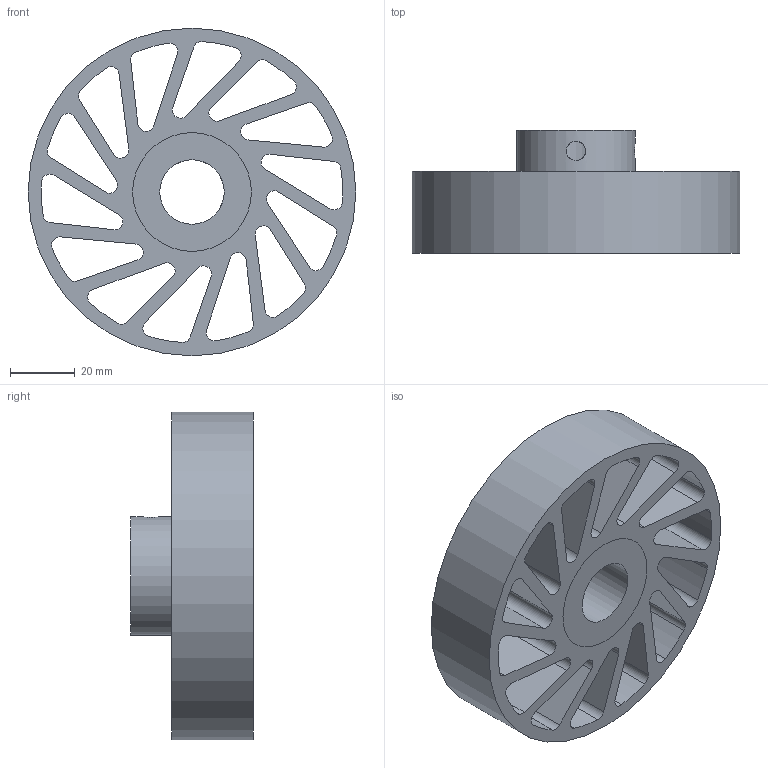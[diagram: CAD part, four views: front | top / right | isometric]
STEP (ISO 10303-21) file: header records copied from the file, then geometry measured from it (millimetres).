
FILE_DESCRIPTION(/* description */ (''),/* implementation_level */ '2;1');
FILE_NAME(/* name */ 'NCWM-370-XXX-YYY.stp',/* time_stamp */ '2023-02-02T16:24:35-06:00',/* author */ ('AG'),/* organization */ ('Meridian Laboratory'),/* preprocessor_version */ 'ST-DEVELOPER v18.1',/* originating_system */ 'Autodesk Inventor 2022',/* authorisation */ '');
FILE_SCHEMA (('AUTOMOTIVE_DESIGN { 1 0 10303 214 3 1 1 }'));
Length unit declared in the file: millimetre
Products named in the file (1): NCWM-340
Bounding box: 101.6 x 38.1 x 101.6 mm (x, y, z)
Volume: 116519.5 mm3; surface area: 51121.3 mm2
Topology: 2 solids, 2 shells, 94 faces, 276 edges, 186 vertices
Faces by surface type: cylinder 62, plane 32
Full cylindrical faces by diameter (mm): 6 x2, 20.025 x1, 36.83 x2, 101.6 x1
Entity records: 3528 total; most frequent: CARTESIAN_POINT 697, DIRECTION 576, ORIENTED_EDGE 552, EDGE_CURVE 276, AXIS2_PLACEMENT_3D 215, VERTEX_POINT 186, LINE 146, VECTOR 146
